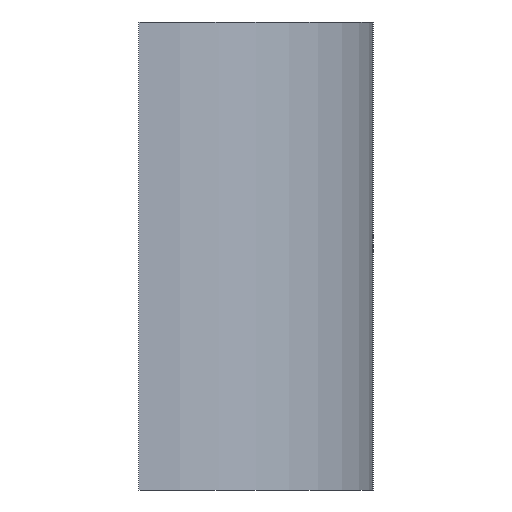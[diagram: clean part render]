
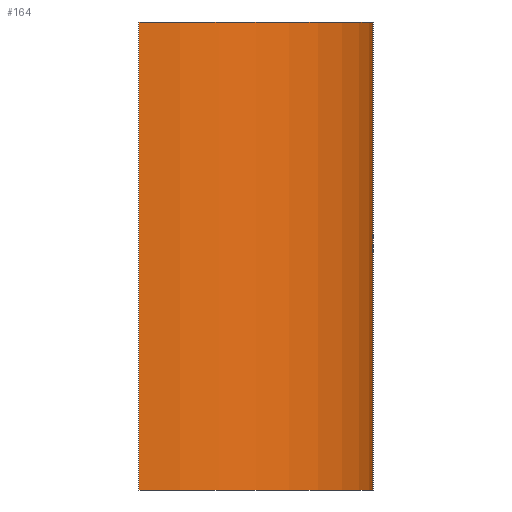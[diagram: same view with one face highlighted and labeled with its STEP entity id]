
A CAD part, left-side view. The second image highlights one B-rep face of the part: STEP entity #164.
In plain terms, the highlighted cylindrical face has radius 25 mm (diameter 50 mm), a partial arc.
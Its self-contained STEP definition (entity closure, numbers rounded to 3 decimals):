
#2 = AXIS2_PLACEMENT_3D ( 'NONE', #158, #103, #99 ) ;
#4 = ORIENTED_EDGE ( 'NONE', *, *, #65, .T. ) ;
#5 = ORIENTED_EDGE ( 'NONE', *, *, #202, .F. ) ;
#11 = FACE_OUTER_BOUND ( 'NONE', #50, .T. ) ;
#27 = LINE ( 'NONE', #162, #149 ) ;
#32 = EDGE_CURVE ( 'NONE', #33, #184, #57, .T. ) ;
#33 = VERTEX_POINT ( 'NONE', #40 ) ;
#40 = CARTESIAN_POINT ( 'NONE',  ( -25., 25., 0. ) ) ;
#41 = CARTESIAN_POINT ( 'NONE',  ( 0., 0., 50. ) ) ;
#50 = EDGE_LOOP ( 'NONE', ( #53, #5, #4, #85 ) ) ;
#53 = ORIENTED_EDGE ( 'NONE', *, *, #131, .F. ) ;
#54 = DIRECTION ( 'NONE',  ( 1., 0., 0. ) ) ;
#57 = LINE ( 'NONE', #86, #92 ) ;
#59 = DIRECTION ( 'NONE',  ( -1., 0., 0. ) ) ;
#65 = EDGE_CURVE ( 'NONE', #115, #33, #183, .T. ) ;
#82 = AXIS2_PLACEMENT_3D ( 'NONE', #185, #204, #59 ) ;
#84 = VERTEX_POINT ( 'NONE', #41 ) ;
#85 = ORIENTED_EDGE ( 'NONE', *, *, #32, .T. ) ;
#86 = CARTESIAN_POINT ( 'NONE',  ( -25., 25., 0. ) ) ;
#92 = VECTOR ( 'NONE', #136, 1000. ) ;
#99 = DIRECTION ( 'NONE',  ( -1., 0., 0. ) ) ;
#103 = DIRECTION ( 'NONE',  ( 0., 0., -1. ) ) ;
#115 = VERTEX_POINT ( 'NONE', #187 ) ;
#121 = AXIS2_PLACEMENT_3D ( 'NONE', #125, #190, #54 ) ;
#123 = CYLINDRICAL_SURFACE ( 'NONE', #121, 25. ) ;
#125 = CARTESIAN_POINT ( 'NONE',  ( 0., 25., 0. ) ) ;
#131 = EDGE_CURVE ( 'NONE', #84, #184, #213, .T. ) ;
#136 = DIRECTION ( 'NONE',  ( 0., 0., 1. ) ) ;
#137 = CARTESIAN_POINT ( 'NONE',  ( -25., 25., 50. ) ) ;
#149 = VECTOR ( 'NONE', #209, 1000. ) ;
#158 = CARTESIAN_POINT ( 'NONE',  ( 0., 25., 50. ) ) ;
#162 = CARTESIAN_POINT ( 'NONE',  ( 0., 0., 0. ) ) ;
#164 = ADVANCED_FACE ( 'NONE', ( #11 ), #123, .F. ) ;
#183 = CIRCLE ( 'NONE', #82, 25. ) ;
#184 = VERTEX_POINT ( 'NONE', #137 ) ;
#185 = CARTESIAN_POINT ( 'NONE',  ( 0., 25., 0. ) ) ;
#187 = CARTESIAN_POINT ( 'NONE',  ( 0., 0., 0. ) ) ;
#190 = DIRECTION ( 'NONE',  ( 0., 0., 1. ) ) ;
#202 = EDGE_CURVE ( 'NONE', #115, #84, #27, .T. ) ;
#204 = DIRECTION ( 'NONE',  ( 0., 0., -1. ) ) ;
#209 = DIRECTION ( 'NONE',  ( 0., 0., 1. ) ) ;
#213 = CIRCLE ( 'NONE', #2, 25. ) ;
